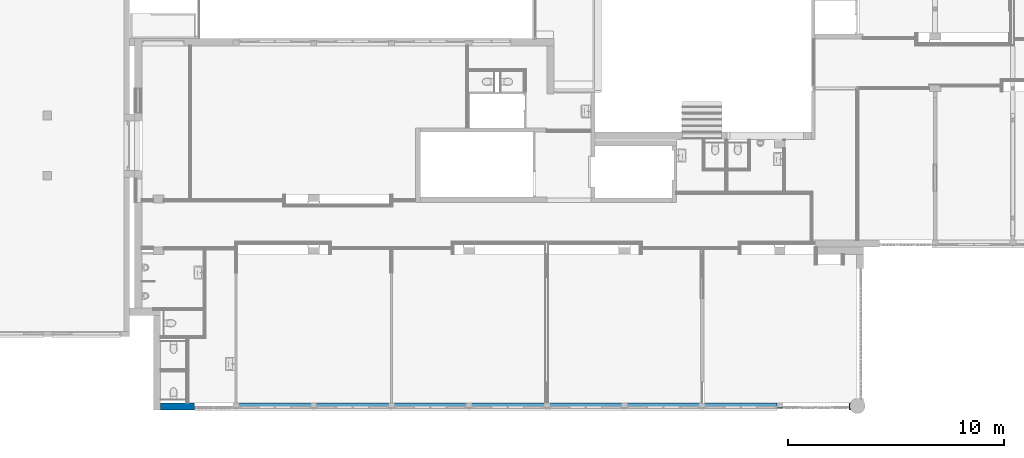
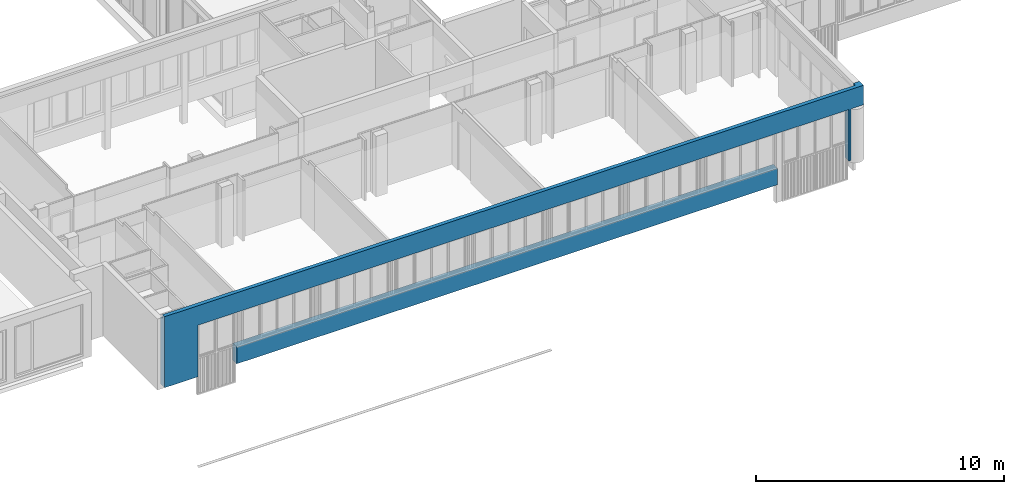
# One storey, part 28 of 99: 1 wall, 10 openings.
"""IFC2X3 building model written with IfcOpenShell, lengths in millimetres."""

from ifc_helpers import new_model, entity, si_unit, converted_unit, derived_unit, money_unit, direction, frame, origin_with_axes, place, context, subcontext, project, spatial, faceted_brep, material, type_object, element, save


model = new_model("IFC2X3")

# Units and contexts
model_context = context("Model", 3, precision=0.01, world=origin_with_axes(), true_north=direction((0.0, 1.0)))
body_context = subcontext(model_context, "Body", "Model", "MODEL_VIEW")
ifc_project = project(units=[si_unit("LENGTHUNIT", "METRE", prefix="MILLI"), si_unit("AREAUNIT", "SQUARE_METRE"), si_unit("VOLUMEUNIT", "CUBIC_METRE"), converted_unit("PLANEANGLEUNIT", "DEGREE", entity("IfcPlaneAngleMeasure", 0.0174532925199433), si_unit("PLANEANGLEUNIT", "RADIAN"), dimensions=[0, 0, 0, 0, 0, 0, 0]), money_unit("EUR"), converted_unit("TIMEUNIT", "Year", entity("IfcTimeMeasure", 31557600.0), si_unit("TIMEUNIT", "SECOND"), dimensions=[0, 0, 1, 0, 0, 0, 0]), si_unit("MASSUNIT", "GRAM", prefix="KILO"), si_unit("THERMODYNAMICTEMPERATUREUNIT", "DEGREE_CELSIUS"), si_unit("LUMINOUSINTENSITYUNIT", "LUMEN"), si_unit("ENERGYUNIT", "JOULE", prefix="MEGA"), derived_unit("THERMALCONDUCTANCEUNIT", [(si_unit("POWERUNIT", "WATT"), 1), (si_unit("LENGTHUNIT", "METRE"), -1), (si_unit("THERMODYNAMICTEMPERATUREUNIT", "KELVIN"), -1)]), derived_unit("SPECIFICHEATCAPACITYUNIT", [(si_unit("ENERGYUNIT", "JOULE"), 1), (si_unit("MASSUNIT", "GRAM", prefix="KILO"), -1), (si_unit("THERMODYNAMICTEMPERATUREUNIT", "KELVIN"), -1)]), derived_unit("MASSDENSITYUNIT", [(si_unit("MASSUNIT", "GRAM", prefix="KILO"), 1), (si_unit("VOLUMEUNIT", "CUBIC_METRE"), -1)])], contexts=[model_context])

# Site, building, storey
site_placement = place(None, origin_with_axes())
site = spatial("IfcSite", under=ifc_project, at=site_placement, Name="Site", CompositionType="ELEMENT")
building_placement = place(site_placement, origin_with_axes())
building = spatial("IfcBuilding", under=site, at=building_placement, Name="Naam gebouw", CompositionType="ELEMENT")
storey_placement = place(building_placement, frame((0.0, 0.0, 7650.0), z_axis=(0.0, 0.0, 1.0), x_axis=(1.0, 0.0, 0.0)))
storey = spatial("IfcBuildingStorey", under=building, at=storey_placement, Name="2e verdieping N", CompositionType="ELEMENT", Elevation=7650.0)

# Wall, openings
ifc_material = material(Name="ALG - CONSTRUCTIEF")
wall_type = type_object("IfcWallType", Name="ALG - CONSTRUCTIEF 330", PredefinedType="NOTDEFINED")
wall_placement = place(storey_placement, frame((100.0000438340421, 3445.668707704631, -99.99999999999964), z_axis=(0.0, 0.0, 1.0), x_axis=(1.0, 0.0, 0.0)))
wall = element("IfcWall", 1, at=wall_placement, inside=storey, type_object=wall_type, material=ifc_material, Name="_Wand-x", context=body_context, shape_type="Brep", body=[
    faceted_brep([(28562.49995616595, -0.04142196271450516, 2540.000000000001), (31907.53776510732, -0.04963968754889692, 2540.000000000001), (31907.53776510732, -329.9999999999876, 2540.000000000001), (1562.498715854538, -329.9999999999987, 2539.999999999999), (1562.498715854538, 0.007280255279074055, 2539.999999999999), (3362.498715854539, 0.01566711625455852, 2539.999999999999), (7237.498715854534, 0.01096697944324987, 2540.000000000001), (25237.45654693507, -0.03325335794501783, 2540.000000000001), (28837.53776510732, -259.9999999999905, 2540.000000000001), (28837.53776510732, -215.9999999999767, 2540.000000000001), (28562.53776510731, -215.9999999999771, 2540.000000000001), (28562.53776510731, -259.9999999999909, 2540.000000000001), (21362.49995616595, -215.9999999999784, 2540.000000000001), (21362.49995616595, -259.9999999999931, 2540.000000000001), (21637.49995616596, -259.9999999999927, 2540.000000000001), (21637.49995616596, -215.999999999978, 2540.000000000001), (10837.50926540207, -259.9999999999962, 2540.000000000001), (10837.49995616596, -215.9999999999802, 2540.000000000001), (10562.49995616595, -215.9999999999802, 2540.000000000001), (10562.49995616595, -259.9999999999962, 2540.000000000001), (14437.49995616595, -215.9999999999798, 2540.000000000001), (14162.49995616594, -215.9999999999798, 2540.000000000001), (14162.49995616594, -259.9999999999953, 2540.000000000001), (14437.50926540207, -259.9999999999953, 2540.000000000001), (7237.499956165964, -215.9999999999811, 2540.000000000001), (6962.499956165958, -215.9999999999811, 2540.000000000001), (6962.499956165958, -259.9999999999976, 2540.000000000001), (7237.498715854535, -259.9999999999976, 2540.000000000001), (3637.499956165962, -215.9999999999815, 2540.000000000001), (3362.499956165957, -215.999999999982, 2540.000000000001), (3362.498715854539, -259.9999999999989, 2539.999999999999), (3637.499956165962, -259.9999999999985, 2540.000000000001), (17762.49995616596, -215.9999999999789, 2540.000000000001), (17762.49995616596, -259.999999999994, 2540.000000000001), (18037.49722334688, -259.999999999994, 2540.000000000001), (18037.49995616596, -215.9999999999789, 2540.000000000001), (25237.49995616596, -259.9999999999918, 2540.000000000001), (25237.49995616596, -215.9999999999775, 2540.000000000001), (25237.45654693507, -215.9999999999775, 2540.000000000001), (24962.49995616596, -215.9999999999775, 2540.000000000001), (24962.49995616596, -259.9999999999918, 2540.000000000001), (25237.45654693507, -259.9999999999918, 2540.000000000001), (0.0, 0.0, 3299.999999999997), (31981.62875779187, -0.04982170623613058, 2540.000000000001), (31907.53776510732, -0.00973599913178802, 820.0000000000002), (31907.53776510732, -146.0097359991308, 820.0000000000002), (31907.53776510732, -146.0097359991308, 0.0), (31907.53776510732, -329.9999999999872, 0.0), (0.0, -329.9999999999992, 0.0), (1562.49871585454, -329.9999999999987, 0.0), (32003.01155492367, -329.9999999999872, 0.0), (32003.01155492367, -329.9999999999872, 2540.000000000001), (32575.47021624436, -329.9999999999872, 2540.000000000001), (32575.47021624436, -329.9999999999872, 3500.0), (0.0, -329.9999999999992, 3500.0), (1562.49871585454, -0.0005275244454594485, 0.0), (1562.49871585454, -0.0005275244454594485, 44.42995921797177), (1562.498715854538, 0.007048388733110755, 381.040724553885), (0.0, 0.0, 0.0), (32299.99995616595, -0.00973599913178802, 3299.999999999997), (32299.99995616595, 0.0, 3500.0), (32575.47021624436, 0.0, 3500.0), (31907.5377650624, -0.00973599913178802, 0.0), (31981.62875779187, -0.04982170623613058, 0.0), (31964.17741540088, -46.838681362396, 0.0), (31953.56245150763, -95.63488286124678, 0.0), (31949.99995616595, -145.4450762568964, 0.0), (31953.56245150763, -195.255269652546, 0.0), (31964.17741540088, -244.0514711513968, 0.0), (31981.62875779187, -290.8403308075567, 0.0), (31981.62875779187, -290.8403308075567, 2540.000000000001), (31964.17741540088, -244.0514711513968, 2540.000000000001), (31953.56245150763, -195.255269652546, 2540.000000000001), (31949.99995616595, -145.4450762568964, 2540.000000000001), (31953.56245150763, -95.63488286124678, 2540.000000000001), (31964.17741540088, -46.838681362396, 2540.000000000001), (32575.47021624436, 0.0, 2540.000000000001), (0.0, -149.7562826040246, 3500.0), (32299.99995616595, -149.7562826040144, 3500.0), (0.0, -149.7562826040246, 3299.999999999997), (32299.99995616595, -149.7562826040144, 3299.999999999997)], [[[0, 1, 2, 3, 4, 5, 6, 7], [8, 9, 10, 11], [12, 13, 14, 15], [16, 17, 18, 19], [20, 21, 22, 23], [24, 25, 26, 27], [28, 29, 30, 31], [32, 33, 34, 35], [36, 37, 38, 39, 40, 41]], [[0, 7, 6, 42, 43, 1]], [[1, 44, 45, 46, 47, 2]], [[48, 49, 3, 2, 47, 50, 51, 52, 53, 54]], [[49, 55, 56, 57, 4, 3]], [[57, 58, 42, 5, 4]], [[6, 5, 42]], [[9, 8, 11, 10]], [[13, 12, 15, 14]], [[17, 16, 19, 18]], [[21, 20, 23, 22]], [[25, 24, 27, 26]], [[29, 28, 31, 30]], [[33, 32, 35, 34]], [[37, 36, 41, 40, 39, 38]], [[43, 42, 59, 60, 61]], [[44, 1, 43]], [[46, 45, 44, 62]], [[47, 46, 62, 63, 64, 65, 66, 67, 68, 69, 50]], [[58, 55, 49, 48]], [[70, 51, 50, 69]], [[52, 51, 70, 71, 72, 73, 74, 75, 43, 76]], [[76, 61, 53, 52]], [[77, 54, 53, 61, 60, 78]], [[48, 54, 77, 79, 42, 58]], [[56, 55, 58]], [[57, 56, 58]], [[80, 59, 42, 79]], [[59, 80, 78, 60]], [[76, 43, 61]], [[44, 43, 63, 62]], [[43, 75, 64, 63]], [[75, 74, 65, 64]], [[74, 73, 66, 65]], [[73, 72, 67, 66]], [[67, 72, 71, 68]], [[68, 71, 70, 69]], [[78, 80, 79, 77]]]),
    faceted_brep([(25237.45654693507, -0.006317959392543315, 820.0000000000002), (28562.49995616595, -0.009474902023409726, 820.0000000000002), (28562.49995616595, -0.009643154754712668, 812.1803207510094), (3362.498715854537, -0.001135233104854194, 95.61331430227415), (3362.498715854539, 0.01516813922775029, 820.0000000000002), (3362.498715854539, -329.9999999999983, 820.0000000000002), (28562.49995616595, -329.999999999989, 820.0000000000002), (28562.49995616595, -259.9999999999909, 820.0000000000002), (28562.49995616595, -329.9999999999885, 0.0), (28562.49995616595, -0.009643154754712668, 0.0), (3362.498715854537, -0.001135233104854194, 0.0), (3362.498715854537, -329.9999999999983, 0.0)], [[[0, 1, 2, 3, 4]], [[0, 4, 5, 6, 7, 1]], [[1, 7, 6, 8, 9, 2]], [[2, 9, 10, 3]], [[11, 5, 4, 3, 10]], [[5, 11, 8, 6]], [[9, 8, 11, 10]]]),
])
opening_1_placement = place(wall_placement, frame((5299.998715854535, 0.0, 820.0000000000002), z_axis=(0.0, 0.0, 1.0), x_axis=(1.0, 0.0, 0.0)))
element("IfcOpeningElement", 2, at=opening_1_placement, cuts=wall, Name="_Merk-048", context=body_context, shape_type="Brep", body=[
    faceted_brep([(1937.5, -259.9999999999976, 0.0), (1937.5, -259.9999999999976, 1720.000000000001), (1937.5, -331.0000000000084, 1720.000000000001), (1937.5, -331.0000000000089, 0.0), (1937.5, 1.00000000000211, 0.0), (1937.5, 1.00000000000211, 1720.000000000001), (-1937.5, -259.9999999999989, 1720.000000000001), (-1937.5, -331.0000000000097, 1720.000000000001), (-1937.5, 1.000000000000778, 1720.000000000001), (-1937.5, -331.0000000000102, 0.0), (-1937.5, -259.9999999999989, 0.0), (-1937.5, 1.000000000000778, 0.0)], [[[0, 1, 2, 3]], [[1, 0, 4, 5]], [[6, 7, 2, 1, 5, 8]], [[7, 9, 3, 2]], [[0, 3, 9, 10, 11, 4]], [[5, 4, 11, 8]], [[6, 10, 9, 7]], [[10, 6, 8, 11]]]),
])
opening_2_placement = place(wall_placement, frame((2462.498715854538, 0.0, -960.0000000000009), z_axis=(0.0, 0.0, 1.0), x_axis=(1.0, 0.0, 0.0)))
element("IfcOpeningElement", 3, at=opening_2_placement, cuts=wall, Name="_Merk-051", context=body_context, shape_type="Brep", body=[
    faceted_brep([(899.9999999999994, -259.9999999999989, -1060.0), (899.9999999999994, -259.9999999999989, 3500.0), (899.9999999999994, -331.0000000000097, 3500.0), (899.9999999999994, -331.0000000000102, -1060.0), (899.9999999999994, 1.000000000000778, -1060.0), (899.9999999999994, 1.000000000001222, 3500.0), (-900.0000000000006, -259.9999999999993, 3500.0), (-900.0000000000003, -331.0000000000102, 3500.0), (-900.0000000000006, 1.000000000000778, 3500.0), (-900.0000000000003, -331.0000000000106, -1060.0), (-900.0000000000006, -259.9999999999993, -1060.0), (-900.0000000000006, 1.000000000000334, -1060.0)], [[[0, 1, 2, 3]], [[1, 0, 4, 5]], [[6, 7, 2, 1, 5, 8]], [[7, 9, 3, 2]], [[0, 3, 9, 10, 11, 4]], [[5, 4, 11, 8]], [[6, 10, 9, 7]], [[10, 6, 8, 11]]]),
])
opening_3_placement = place(wall_placement, frame((8900.009265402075, 0.0, 820.0000000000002), z_axis=(0.0, 0.0, 1.0), x_axis=(1.0, 0.0, 0.0)))
element("IfcOpeningElement", 4, at=opening_3_placement, cuts=wall, Name="_Merk-048", context=body_context, shape_type="Brep", body=[
    faceted_brep([(1937.5, -259.9999999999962, 0.0), (1937.5, -259.9999999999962, 1720.000000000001), (1937.5, -331.000000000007, 1720.000000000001), (1937.5, -331.0000000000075, 0.0), (1937.5, 1.000000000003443, 0.0), (1937.5, 1.000000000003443, 1720.000000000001), (-1937.499999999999, -259.9999999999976, 1720.000000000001), (-1937.499999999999, -331.0000000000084, 1720.000000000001), (-1937.499999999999, 1.00000000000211, 1720.000000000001), (-1937.499999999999, -331.0000000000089, 0.0), (-1937.499999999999, -259.9999999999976, 0.0), (-1937.499999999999, 1.00000000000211, 0.0)], [[[0, 1, 2, 3]], [[1, 0, 4, 5]], [[6, 7, 2, 1, 5, 8]], [[7, 9, 3, 2]], [[0, 3, 9, 10, 11, 4]], [[5, 4, 11, 8]], [[6, 10, 9, 7]], [[10, 6, 8, 11]]]),
])
opening_4_placement = place(wall_placement, frame((16099.99722334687, 0.0, 820.0000000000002), z_axis=(0.0, 0.0, 1.0), x_axis=(1.0, 0.0, 0.0)))
element("IfcOpeningElement", 5, at=opening_4_placement, cuts=wall, Name="_Merk-048", context=body_context, shape_type="Brep", body=[
    faceted_brep([(1937.5, -259.9999999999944, 0.0), (1937.5, -259.9999999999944, 1720.000000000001), (1937.5, -331.0000000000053, 1720.000000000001), (1937.5, -331.0000000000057, 0.0), (1937.5, 1.000000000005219, 0.0), (1937.5, 1.000000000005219, 1720.000000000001), (-1937.500000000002, -259.9999999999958, 1720.000000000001), (-1937.500000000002, -331.0000000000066, 1720.000000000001), (-1937.500000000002, 1.000000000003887, 1720.000000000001), (-1937.500000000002, -331.000000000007, 0.0), (-1937.500000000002, -259.9999999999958, 0.0), (-1937.500000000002, 1.000000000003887, 0.0)], [[[0, 1, 2, 3]], [[1, 0, 4, 5]], [[6, 7, 2, 1, 5, 8]], [[7, 9, 3, 2]], [[0, 3, 9, 10, 11, 4]], [[5, 4, 11, 8]], [[6, 10, 9, 7]], [[10, 6, 8, 11]]]),
])
opening_5_placement = place(wall_placement, frame((12500.00926540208, 0.0, 820.0000000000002), z_axis=(0.0, 0.0, 1.0), x_axis=(1.0, 0.0, 0.0)))
element("IfcOpeningElement", 6, at=opening_5_placement, cuts=wall, Name="_Merk-048", context=body_context, shape_type="Brep", body=[
    faceted_brep([(1937.5, -259.9999999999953, 0.0), (1937.5, -259.9999999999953, 1720.000000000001), (1937.5, -331.0000000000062, 1720.000000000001), (1937.5, -331.0000000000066, 0.0), (1937.5, 1.000000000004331, 0.0), (1937.5, 1.000000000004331, 1720.000000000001), (-1937.5, -259.9999999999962, 1720.000000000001), (-1937.5, -331.000000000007, 1720.000000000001), (-1937.5, 1.000000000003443, 1720.000000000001), (-1937.5, -331.0000000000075, 0.0), (-1937.5, -259.9999999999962, 0.0), (-1937.5, 1.000000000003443, 0.0)], [[[0, 1, 2, 3]], [[1, 0, 4, 5]], [[6, 7, 2, 1, 5, 8]], [[7, 9, 3, 2]], [[0, 3, 9, 10, 11, 4]], [[5, 4, 11, 8]], [[6, 10, 9, 7]], [[10, 6, 8, 11]]]),
])
opening_6_placement = place(wall_placement, frame((23299.95654693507, 0.0, 820.0000000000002), z_axis=(0.0, 0.0, 1.0), x_axis=(1.0, 0.0, 0.0)))
element("IfcOpeningElement", 7, at=opening_6_placement, cuts=wall, Name="_Merk-048", context=body_context, shape_type="Brep", body=[
    faceted_brep([(1937.5, -259.9999999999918, 0.0), (1937.5, -259.9999999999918, 1720.000000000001), (1937.5, -331.0000000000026, 1720.000000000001), (1937.5, -331.0000000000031, 0.0), (1937.5, 1.000000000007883, 0.0), (1937.5, 1.000000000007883, 1720.000000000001), (-1937.5, -259.9999999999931, 1720.000000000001), (-1937.5, -331.000000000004, 1720.000000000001), (-1937.5, 1.000000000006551, 1720.000000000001), (-1937.5, -331.0000000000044, 0.0), (-1937.5, -259.9999999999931, 0.0), (-1937.5, 1.000000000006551, 0.0)], [[[0, 1, 2, 3]], [[1, 0, 4, 5]], [[6, 7, 2, 1, 5, 8]], [[7, 9, 3, 2]], [[0, 3, 9, 10, 11, 4]], [[5, 4, 11, 8]], [[6, 10, 9, 7]], [[10, 6, 8, 11]]]),
])
opening_7_placement = place(wall_placement, frame((31140.03776510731, 0.0, -959.9999999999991), z_axis=(0.0, 0.0, 1.0), x_axis=(1.0, 0.0, 0.0)))
element("IfcOpeningElement", 8, at=opening_7_placement, cuts=wall, Name="_Merk-058", context=body_context, shape_type="Brep", body=[
    faceted_brep([(767.4999999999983, -259.9999999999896, -1060.0), (767.4999999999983, -259.9999999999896, 3500.0), (767.4999999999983, -330.9999999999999, 3500.0), (767.4999999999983, -331.0000000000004, -1060.0), (767.4999999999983, 1.000000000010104, -1060.0), (767.4999999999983, 1.000000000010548, 3500.0), (-767.4999999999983, -259.99999999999, 3500.0), (-767.4999999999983, -331.0000000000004, 3500.0), (-767.4999999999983, 1.000000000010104, 3500.0), (-767.4999999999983, -331.0000000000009, -1060.0), (-767.4999999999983, -259.99999999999, -1060.0), (-767.4999999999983, 1.00000000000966, -1060.0)], [[[0, 1, 2, 3]], [[1, 0, 4, 5]], [[6, 7, 2, 1, 5, 8]], [[7, 9, 3, 2]], [[0, 3, 9, 10, 11, 4]], [[5, 4, 11, 8]], [[6, 10, 9, 7]], [[10, 6, 8, 11]]]),
])
opening_8_placement = place(wall_placement, frame((19699.95654693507, 0.0, 820.0000000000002), z_axis=(0.0, 0.0, 1.0), x_axis=(1.0, 0.0, 0.0)))
element("IfcOpeningElement", 9, at=opening_8_placement, cuts=wall, Name="_Merk-048", context=body_context, shape_type="Brep", body=[
    faceted_brep([(1937.5, -259.9999999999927, 0.0), (1937.5, -259.9999999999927, 1720.000000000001), (1937.5, -331.0000000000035, 1720.000000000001), (1937.5, -331.000000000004, 0.0), (1937.5, 1.000000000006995, 0.0), (1937.5, 1.000000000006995, 1720.000000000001), (-1937.5, -259.999999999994, 1720.000000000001), (-1937.5, -331.0000000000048, 1720.000000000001), (-1937.5, 1.000000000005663, 1720.000000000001), (-1937.5, -331.0000000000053, 0.0), (-1937.5, -259.999999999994, 0.0), (-1937.5, 1.000000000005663, 0.0)], [[[0, 1, 2, 3]], [[1, 0, 4, 5]], [[6, 7, 2, 1, 5, 8]], [[7, 9, 3, 2]], [[0, 3, 9, 10, 11, 4]], [[5, 4, 11, 8]], [[6, 10, 9, 7]], [[10, 6, 8, 11]]]),
])
opening_9_placement = place(wall_placement, frame((26899.95654693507, 0.0, 820.0000000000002), z_axis=(0.0, 0.0, 1.0), x_axis=(1.0, 0.0, 0.0)))
element("IfcOpeningElement", 10, at=opening_9_placement, cuts=wall, Name="_Merk-048", context=body_context, shape_type="Brep", body=[
    faceted_brep([(1937.5, -259.9999999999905, 0.0), (1937.5, -259.9999999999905, 1720.000000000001), (1937.5, -331.0000000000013, 1720.000000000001), (1937.5, -331.0000000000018, 0.0), (1937.5, 1.000000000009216, 0.0), (1937.5, 1.000000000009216, 1720.000000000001), (-1937.5, -259.9999999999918, 1720.000000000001), (-1937.5, -331.0000000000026, 1720.000000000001), (-1937.5, 1.000000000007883, 1720.000000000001), (-1937.5, -331.0000000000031, 0.0), (-1937.5, -259.9999999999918, 0.0), (-1937.5, 1.000000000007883, 0.0)], [[[0, 1, 2, 3]], [[1, 0, 4, 5]], [[6, 7, 2, 1, 5, 8]], [[7, 9, 3, 2]], [[0, 3, 9, 10, 11, 4]], [[5, 4, 11, 8]], [[6, 10, 9, 7]], [[10, 6, 8, 11]]]),
])
opening_10_placement = place(wall_placement, frame((29605.01886063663, 0.0, -959.9999999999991), z_axis=(0.0, 0.0, 1.0), x_axis=(1.0, 0.0, 0.0)))
element("IfcOpeningElement", 11, at=opening_10_placement, cuts=wall, Name="_Merk-058sp", context=body_context, shape_type="Brep", body=[
    faceted_brep([(767.5189044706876, -259.99999999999, -1060.0), (767.5189044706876, -259.99999999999, 3500.0), (767.5189044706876, -331.0000000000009, 3500.0), (767.5189044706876, -331.0000000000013, -1060.0), (767.5189044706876, 1.000000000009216, -1060.0), (767.5189044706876, 1.00000000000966, 3500.0), (-1042.518904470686, -259.9999999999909, 3500.0), (-1042.518904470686, -331.0000000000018, 3500.0), (-1042.518904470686, 1.000000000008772, 3500.0), (-1042.518904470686, -331.0000000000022, -1060.0), (-1042.518904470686, -259.9999999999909, -1060.0), (-1042.518904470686, 1.000000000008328, -1060.0)], [[[0, 1, 2, 3]], [[1, 0, 4, 5]], [[6, 7, 2, 1, 5, 8]], [[7, 9, 3, 2]], [[0, 3, 9, 10, 11, 4]], [[5, 4, 11, 8]], [[6, 10, 9, 7]], [[10, 6, 8, 11]]]),
])

save(model, "model.ifc")
